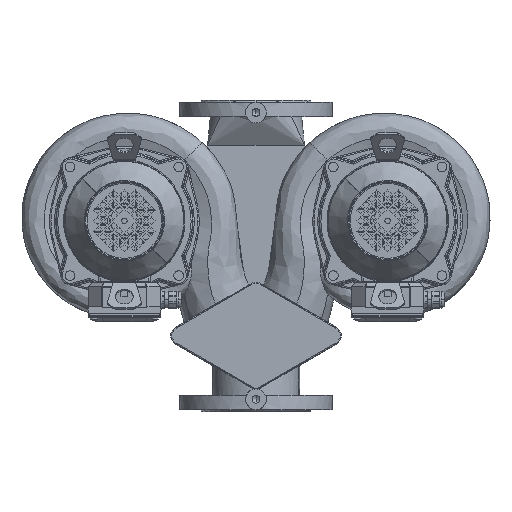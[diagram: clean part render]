
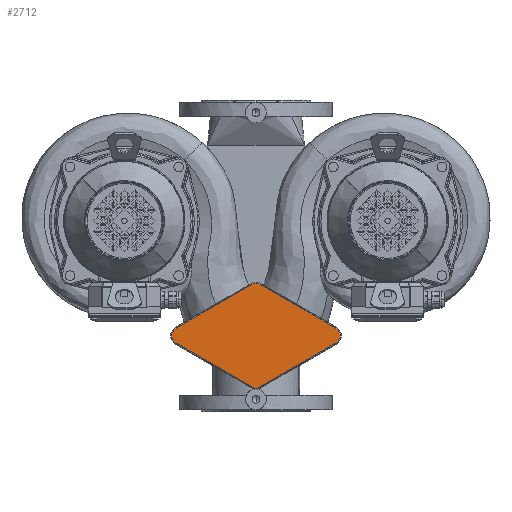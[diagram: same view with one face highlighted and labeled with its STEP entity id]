
A CAD part, top view. The second image highlights one B-rep face of the part: STEP entity #2712.
In plain terms, the highlighted planar face has unit normal (0, 0, 1).
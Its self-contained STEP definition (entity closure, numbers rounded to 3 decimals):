
#2712=ADVANCED_FACE('',(#5620),#5621,.T.);
#2720=EDGE_CURVE('',#5630,#5633,#5634,.T.);
#2728=EDGE_CURVE('',#5633,#5645,#5646,.T.);
#2732=EDGE_CURVE('',#5649,#5652,#5653,.T.);
#2736=EDGE_CURVE('',#5658,#5649,#5659,.T.);
#2744=EDGE_CURVE('',#5668,#5671,#5672,.T.);
#2750=EDGE_CURVE('',#5678,#5681,#5682,.T.);
#3862=EDGE_CURVE('',#5681,#5668,#7205,.T.);
#3868=EDGE_CURVE('',#5671,#5658,#7211,.T.);
#3872=EDGE_CURVE('',#5652,#7215,#7216,.T.);
#3886=EDGE_CURVE('',#5645,#5678,#7233,.T.);
#3888=EDGE_CURVE('',#7215,#5630,#7235,.T.);
#5620=FACE_OUTER_BOUND('',#13888,.T.);
#5621=PLANE('',#13889);
#5630=VERTEX_POINT('',#13899);
#5633=VERTEX_POINT('',#13912);
#5634=LINE('',#13913,#13914);
#5645=VERTEX_POINT('',#13929);
#5646=CIRCLE('',#13930,12.5);
#5649=VERTEX_POINT('',#13934);
#5652=VERTEX_POINT('',#13938);
#5653=LINE('',#13939,#13940);
#5658=VERTEX_POINT('',#13954);
#5659=CIRCLE('',#13955,12.5);
#5668=VERTEX_POINT('',#13967);
#5671=VERTEX_POINT('',#13971);
#5672=LINE('',#13972,#13973);
#5678=VERTEX_POINT('',#13981);
#5681=VERTEX_POINT('',#13985);
#5682=LINE('',#13986,#13987);
#7205=CIRCLE('',#17766,12.5);
#7211=CIRCLE('',#17775,12.5);
#7215=VERTEX_POINT('',#17788);
#7216=CIRCLE('',#17789,14.0);
#7233=CIRCLE('',#17817,12.5);
#7235=CIRCLE('',#17820,14.0);
#13888=EDGE_LOOP('',(#26030,#26031,#26032,#26033,#26034,#26035,#26036,#26037,#26038,#26039,#26040));
#13889=AXIS2_PLACEMENT_3D('',#26041,#26042,#26043);
#13899=CARTESIAN_POINT('',(0.79,241.978,65.));
#13912=CARTESIAN_POINT('',(115.25,175.894,65.));
#13913=CARTESIAN_POINT('',(0.79,241.978,65.));
#13914=VECTOR('',#26062,1.0);
#13929=CARTESIAN_POINT('',(121.5,165.069,65.));
#13930=AXIS2_PLACEMENT_3D('',#26072,#26073,#26074);
#13934=CARTESIAN_POINT('',(-115.25,175.894,65.));
#13938=CARTESIAN_POINT('',(-0.79,241.978,65.));
#13939=CARTESIAN_POINT('',(-115.25,175.894,65.));
#13940=VECTOR('',#26078,1.0);
#13954=CARTESIAN_POINT('',(-121.5,165.069,65.));
#13955=AXIS2_PLACEMENT_3D('',#26079,#26080,#26081);
#13967=CARTESIAN_POINT('',(-6.25,91.312,65.));
#13971=CARTESIAN_POINT('',(-115.25,154.244,65.));
#13972=CARTESIAN_POINT('',(-6.25,91.312,65.));
#13973=VECTOR('',#26091,1.0);
#13981=CARTESIAN_POINT('',(115.25,154.244,65.));
#13985=CARTESIAN_POINT('',(6.25,91.312,65.));
#13986=CARTESIAN_POINT('',(115.25,154.244,65.));
#13987=VECTOR('',#26098,1.0);
#17766=AXIS2_PLACEMENT_3D('',#26932,#26933,#26934);
#17775=AXIS2_PLACEMENT_3D('',#26941,#26942,#26943);
#17788=CARTESIAN_POINT('',(0.0,242.,65.));
#17789=AXIS2_PLACEMENT_3D('',#26944,#26945,#26946);
#17817=AXIS2_PLACEMENT_3D('',#26957,#26958,#26959);
#17820=AXIS2_PLACEMENT_3D('',#26960,#26961,#26962);
#26030=ORIENTED_EDGE('',*,*,#2720,.F.);
#26031=ORIENTED_EDGE('',*,*,#3888,.F.);
#26032=ORIENTED_EDGE('',*,*,#3872,.F.);
#26033=ORIENTED_EDGE('',*,*,#2732,.F.);
#26034=ORIENTED_EDGE('',*,*,#2736,.F.);
#26035=ORIENTED_EDGE('',*,*,#3868,.F.);
#26036=ORIENTED_EDGE('',*,*,#2744,.F.);
#26037=ORIENTED_EDGE('',*,*,#3862,.F.);
#26038=ORIENTED_EDGE('',*,*,#2750,.F.);
#26039=ORIENTED_EDGE('',*,*,#3886,.F.);
#26040=ORIENTED_EDGE('',*,*,#2728,.F.);
#26041=CARTESIAN_POINT('',(7.,240.124,65.));
#26042=DIRECTION('',(0.0,0.0,1.0));
#26043=DIRECTION('',(1.0,0.0,0.0));
#26062=DIRECTION('',(0.866,-0.5,0.0));
#26072=CARTESIAN_POINT('',(109.0,165.069,65.));
#26073=DIRECTION('',(0.0,0.0,-1.0));
#26074=DIRECTION('',(1.0,0.0,0.0));
#26078=DIRECTION('',(0.866,0.5,0.0));
#26079=CARTESIAN_POINT('',(-109.0,165.069,65.));
#26080=DIRECTION('',(0.0,0.0,-1.0));
#26081=DIRECTION('',(-1.0,0.0,0.0));
#26091=DIRECTION('',(-0.866,0.5,0.0));
#26098=DIRECTION('',(-0.866,-0.5,0.0));
#26932=CARTESIAN_POINT('',(0.,102.138,65.));
#26933=DIRECTION('',(0.0,0.0,-1.0));
#26934=DIRECTION('',(0.0,-1.0,0.0));
#26941=CARTESIAN_POINT('',(-109.0,165.069,65.));
#26942=DIRECTION('',(0.0,0.0,-1.0));
#26943=DIRECTION('',(-1.0,0.0,0.0));
#26944=CARTESIAN_POINT('',(0.,228.,65.));
#26945=DIRECTION('',(0.0,0.0,-1.0));
#26946=DIRECTION('',(0.5,0.866,0.0));
#26957=CARTESIAN_POINT('',(109.0,165.069,65.));
#26958=DIRECTION('',(0.0,0.0,-1.0));
#26959=DIRECTION('',(1.0,0.0,0.0));
#26960=CARTESIAN_POINT('',(0.,228.,65.));
#26961=DIRECTION('',(0.0,0.0,-1.0));
#26962=DIRECTION('',(0.5,0.866,0.0));
